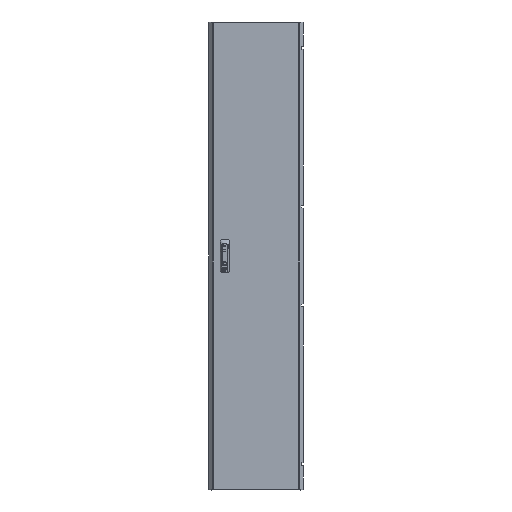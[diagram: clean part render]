
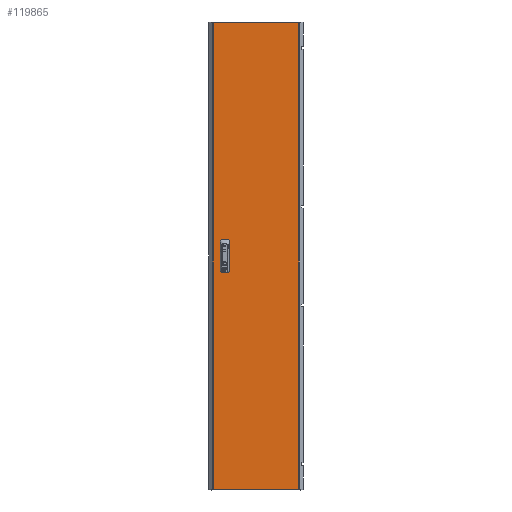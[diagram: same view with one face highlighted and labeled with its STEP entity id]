
A CAD part, top view. The second image highlights one B-rep face of the part: STEP entity #119865.
In plain terms, the highlighted planar face has unit normal (0, 0, 1).
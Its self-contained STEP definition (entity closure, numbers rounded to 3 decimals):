
#434 = LINE ( 'NONE', #118868, #25232 ) ;
#2301 = CARTESIAN_POINT ( 'NONE',  ( -117.5, -62.5, 0. ) ) ;
#4781 = EDGE_CURVE ( 'NONE', #18239, #68907, #5662, .T. ) ;
#5662 = LINE ( 'NONE', #71870, #98452 ) ;
#6251 = VECTOR ( 'NONE', #27080, 1000. ) ;
#6285 = CARTESIAN_POINT ( 'NONE',  ( 177.875, -969.5, 0. ) ) ;
#6341 = DIRECTION ( 'NONE',  ( -1., 0., 0. ) ) ;
#10053 = FACE_OUTER_BOUND ( 'NONE', #48181, .T. ) ;
#13617 = DIRECTION ( 'NONE',  ( 1., 0., 0. ) ) ;
#15665 = LINE ( 'NONE', #36084, #104731 ) ;
#17912 = VECTOR ( 'NONE', #27419, 1000. ) ;
#18239 = VERTEX_POINT ( 'NONE', #81024 ) ;
#20408 = ORIENTED_EDGE ( 'NONE', *, *, #4781, .F. ) ;
#20510 = EDGE_CURVE ( 'NONE', #59995, #40962, #124373, .T. ) ;
#20672 = EDGE_CURVE ( 'NONE', #132832, #43723, #120069, .T. ) ;
#22024 = CARTESIAN_POINT ( 'NONE',  ( -117.5, 12.5, 0. ) ) ;
#23256 = VECTOR ( 'NONE', #27035, 1000. ) ;
#25232 = VECTOR ( 'NONE', #129444, 1000. ) ;
#26876 = AXIS2_PLACEMENT_3D ( 'NONE', #93980, #37085, #136998 ) ;
#27035 = DIRECTION ( 'NONE',  ( -1., 0., 0. ) ) ;
#27080 = DIRECTION ( 'NONE',  ( 0., -1., 0. ) ) ;
#27419 = DIRECTION ( 'NONE',  ( 0., 1., 0. ) ) ;
#28433 = ORIENTED_EDGE ( 'NONE', *, *, #66544, .F. ) ;
#30124 = CARTESIAN_POINT ( 'NONE',  ( -142.5, -62.5, 0. ) ) ;
#30236 = ORIENTED_EDGE ( 'NONE', *, *, #122697, .F. ) ;
#31923 = LINE ( 'NONE', #117258, #55283 ) ;
#32649 = CARTESIAN_POINT ( 'NONE',  ( -142.5, -12.5, 0. ) ) ;
#36084 = CARTESIAN_POINT ( 'NONE',  ( -177.875, -969.5, 0. ) ) ;
#37085 = DIRECTION ( 'NONE',  ( 0., 0., -1. ) ) ;
#38147 = CARTESIAN_POINT ( 'NONE',  ( 177.875, 969.5, 0. ) ) ;
#38324 = ORIENTED_EDGE ( 'NONE', *, *, #43477, .F. ) ;
#39285 = CARTESIAN_POINT ( 'NONE',  ( -117.5, -62.5, 0. ) ) ;
#39683 = ORIENTED_EDGE ( 'NONE', *, *, #107057, .T. ) ;
#40962 = VERTEX_POINT ( 'NONE', #67279 ) ;
#42059 = EDGE_CURVE ( 'NONE', #73980, #132832, #31923, .T. ) ;
#43477 = EDGE_CURVE ( 'NONE', #100712, #73980, #64664, .T. ) ;
#43723 = VERTEX_POINT ( 'NONE', #22024 ) ;
#44555 = ORIENTED_EDGE ( 'NONE', *, *, #42059, .F. ) ;
#48181 = EDGE_LOOP ( 'NONE', ( #39683, #85268, #56943, #132521 ) ) ;
#48353 = FACE_BOUND ( 'NONE', #116530, .T. ) ;
#53147 = LINE ( 'NONE', #72207, #117355 ) ;
#55283 = VECTOR ( 'NONE', #72845, 1000. ) ;
#56943 = ORIENTED_EDGE ( 'NONE', *, *, #20510, .T. ) ;
#59995 = VERTEX_POINT ( 'NONE', #61533 ) ;
#61533 = CARTESIAN_POINT ( 'NONE',  ( -177.875, 969.5, 0. ) ) ;
#63607 = FACE_BOUND ( 'NONE', #94562, .T. ) ;
#64664 = LINE ( 'NONE', #107690, #84777 ) ;
#65071 = CARTESIAN_POINT ( 'NONE',  ( 177.875, -969.5, 0. ) ) ;
#66544 = EDGE_CURVE ( 'NONE', #68907, #100539, #434, .T. ) ;
#67279 = CARTESIAN_POINT ( 'NONE',  ( -177.875, -969.5, 0. ) ) ;
#68907 = VERTEX_POINT ( 'NONE', #32649 ) ;
#70824 = VERTEX_POINT ( 'NONE', #39285 ) ;
#71870 = CARTESIAN_POINT ( 'NONE',  ( -142.5, -12.5, 0. ) ) ;
#72166 = CARTESIAN_POINT ( 'NONE',  ( -177.875, -969.5, 0. ) ) ;
#72207 = CARTESIAN_POINT ( 'NONE',  ( -117.5, 12.5, 0. ) ) ;
#72845 = DIRECTION ( 'NONE',  ( 0., -1., 0. ) ) ;
#73980 = VERTEX_POINT ( 'NONE', #96091 ) ;
#74173 = CARTESIAN_POINT ( 'NONE',  ( -117.5, 62.5, 0. ) ) ;
#74188 = VERTEX_POINT ( 'NONE', #38147 ) ;
#74204 = ORIENTED_EDGE ( 'NONE', *, *, #20672, .F. ) ;
#77006 = VERTEX_POINT ( 'NONE', #65071 ) ;
#79113 = DIRECTION ( 'NONE',  ( 1., 0., 0. ) ) ;
#81024 = CARTESIAN_POINT ( 'NONE',  ( -117.5, -12.5, 0. ) ) ;
#84777 = VECTOR ( 'NONE', #97104, 1000. ) ;
#85268 = ORIENTED_EDGE ( 'NONE', *, *, #128100, .T. ) ;
#86280 = ORIENTED_EDGE ( 'NONE', *, *, #122592, .F. ) ;
#86906 = DIRECTION ( 'NONE',  ( 0., 1., 0. ) ) ;
#92760 = EDGE_CURVE ( 'NONE', #40962, #77006, #15665, .T. ) ;
#93980 = CARTESIAN_POINT ( 'NONE',  ( 0., 0., 0. ) ) ;
#94562 = EDGE_LOOP ( 'NONE', ( #38324, #30236, #74204, #44555 ) ) ;
#95459 = DIRECTION ( 'NONE',  ( 0., 1., 0. ) ) ;
#96091 = CARTESIAN_POINT ( 'NONE',  ( -142.5, 62.5, 0. ) ) ;
#97104 = DIRECTION ( 'NONE',  ( -1., 0., 0. ) ) ;
#98452 = VECTOR ( 'NONE', #6341, 1000. ) ;
#99213 = CARTESIAN_POINT ( 'NONE',  ( -142.5, 12.5, 0. ) ) ;
#100539 = VERTEX_POINT ( 'NONE', #30124 ) ;
#100712 = VERTEX_POINT ( 'NONE', #74173 ) ;
#100815 = LINE ( 'NONE', #6285, #17912 ) ;
#101547 = VECTOR ( 'NONE', #86906, 1000. ) ;
#103857 = LINE ( 'NONE', #113747, #23256 ) ;
#104731 = VECTOR ( 'NONE', #79113, 1000. ) ;
#106089 = VECTOR ( 'NONE', #137796, 1000. ) ;
#107057 = EDGE_CURVE ( 'NONE', #77006, #74188, #100815, .T. ) ;
#107690 = CARTESIAN_POINT ( 'NONE',  ( -142.5, 62.5, 0. ) ) ;
#108758 = LINE ( 'NONE', #2301, #101547 ) ;
#110877 = CARTESIAN_POINT ( 'NONE',  ( -142.5, 12.5, 0. ) ) ;
#111453 = EDGE_CURVE ( 'NONE', #70824, #18239, #108758, .T. ) ;
#113747 = CARTESIAN_POINT ( 'NONE',  ( -177.875, 969.5, 0. ) ) ;
#115220 = LINE ( 'NONE', #115910, #106089 ) ;
#115910 = CARTESIAN_POINT ( 'NONE',  ( -142.5, -62.5, 0. ) ) ;
#116530 = EDGE_LOOP ( 'NONE', ( #20408, #133056, #86280, #28433 ) ) ;
#117258 = CARTESIAN_POINT ( 'NONE',  ( -142.5, 12.5, 0. ) ) ;
#117355 = VECTOR ( 'NONE', #95459, 1000. ) ;
#118868 = CARTESIAN_POINT ( 'NONE',  ( -142.5, -62.5, 0. ) ) ;
#119865 = ADVANCED_FACE ( 'NONE', ( #63607, #48353, #10053 ), #133709, .F. ) ;
#120069 = LINE ( 'NONE', #110877, #132386 ) ;
#122592 = EDGE_CURVE ( 'NONE', #100539, #70824, #115220, .T. ) ;
#122697 = EDGE_CURVE ( 'NONE', #43723, #100712, #53147, .T. ) ;
#124373 = LINE ( 'NONE', #72166, #6251 ) ;
#128100 = EDGE_CURVE ( 'NONE', #74188, #59995, #103857, .T. ) ;
#129444 = DIRECTION ( 'NONE',  ( 0., -1., 0. ) ) ;
#132386 = VECTOR ( 'NONE', #13617, 1000. ) ;
#132521 = ORIENTED_EDGE ( 'NONE', *, *, #92760, .T. ) ;
#132832 = VERTEX_POINT ( 'NONE', #99213 ) ;
#133056 = ORIENTED_EDGE ( 'NONE', *, *, #111453, .F. ) ;
#133709 = PLANE ( 'NONE',  #26876 ) ;
#136998 = DIRECTION ( 'NONE',  ( -1., 0., 0. ) ) ;
#137796 = DIRECTION ( 'NONE',  ( 1., 0., 0. ) ) ;
